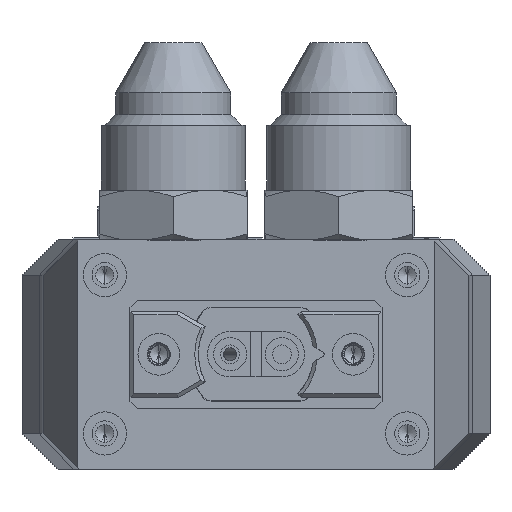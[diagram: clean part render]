
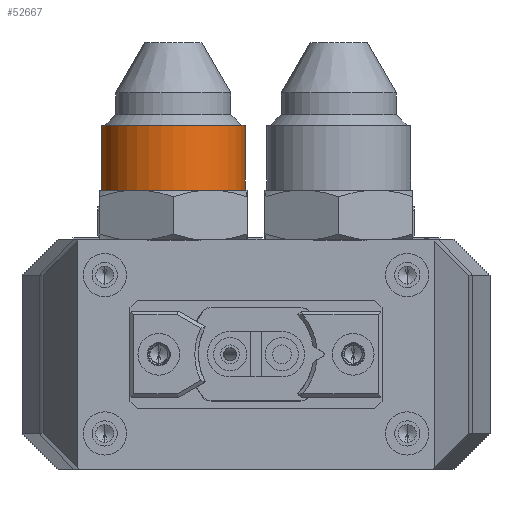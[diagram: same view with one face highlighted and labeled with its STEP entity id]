
A CAD part, front view. The second image highlights one B-rep face of the part: STEP entity #52667.
In plain terms, the highlighted cylindrical face has radius 10 mm (diameter 20 mm), a partial arc.
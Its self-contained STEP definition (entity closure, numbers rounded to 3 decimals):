
#31 = CARTESIAN_POINT ( 'NONE',  ( -100.366, -146.433, 1021.303 ) ) ;
#1193 = CARTESIAN_POINT ( 'NONE',  ( -90.366, -146.433, 1030.303 ) ) ;
#1785 = AXIS2_PLACEMENT_3D ( 'NONE', #31, #53196, #4546 ) ;
#3294 = CARTESIAN_POINT ( 'NONE',  ( -110.366, -146.433, 1021.303 ) ) ;
#3721 = DIRECTION ( 'NONE',  ( 1., 0., 0. ) ) ;
#4546 = DIRECTION ( 'NONE',  ( 1., 0., 0. ) ) ;
#6235 = DIRECTION ( 'NONE',  ( 0., 0., 1. ) ) ;
#14162 = ORIENTED_EDGE ( 'NONE', *, *, #40532, .T. ) ;
#14557 = CARTESIAN_POINT ( 'NONE',  ( -100.366, -146.433, 1052.575 ) ) ;
#17037 = LINE ( 'NONE', #38540, #59964 ) ;
#19364 = DIRECTION ( 'NONE',  ( 0., 0., -1. ) ) ;
#20102 = CYLINDRICAL_SURFACE ( 'NONE', #47701, 10. ) ;
#20143 = ORIENTED_EDGE ( 'NONE', *, *, #24407, .T. ) ;
#20423 = DIRECTION ( 'NONE',  ( 1., 0., 0. ) ) ;
#20802 = VECTOR ( 'NONE', #31431, 1000. ) ;
#24407 = EDGE_CURVE ( 'NONE', #46143, #40011, #58641, .T. ) ;
#24482 = ORIENTED_EDGE ( 'NONE', *, *, #58671, .F. ) ;
#24832 = VERTEX_POINT ( 'NONE', #3294 ) ;
#24836 = EDGE_LOOP ( 'NONE', ( #24482, #14162, #37399, #20143 ) ) ;
#26309 = FACE_OUTER_BOUND ( 'NONE', #24836, .T. ) ;
#26932 = EDGE_CURVE ( 'NONE', #54185, #46143, #17037, .T. ) ;
#31431 = DIRECTION ( 'NONE',  ( 0., 0., 1. ) ) ;
#36652 = CARTESIAN_POINT ( 'NONE',  ( -110.366, -146.433, 1052.575 ) ) ;
#37399 = ORIENTED_EDGE ( 'NONE', *, *, #26932, .T. ) ;
#38540 = CARTESIAN_POINT ( 'NONE',  ( -90.366, -146.433, 1052.575 ) ) ;
#40011 = VERTEX_POINT ( 'NONE', #50862 ) ;
#40532 = EDGE_CURVE ( 'NONE', #24832, #54185, #62830, .T. ) ;
#40938 = DIRECTION ( 'NONE',  ( 0., 0., 1. ) ) ;
#45318 = CARTESIAN_POINT ( 'NONE',  ( -90.366, -146.433, 1021.303 ) ) ;
#46143 = VERTEX_POINT ( 'NONE', #1193 ) ;
#46452 = CARTESIAN_POINT ( 'NONE',  ( -100.366, -146.433, 1030.303 ) ) ;
#47701 = AXIS2_PLACEMENT_3D ( 'NONE', #14557, #40938, #20423 ) ;
#50862 = CARTESIAN_POINT ( 'NONE',  ( -110.366, -146.433, 1030.303 ) ) ;
#52667 = ADVANCED_FACE ( 'NONE', ( #26309 ), #20102, .T. ) ;
#52972 = LINE ( 'NONE', #36652, #20802 ) ;
#53196 = DIRECTION ( 'NONE',  ( 0., 0., 1. ) ) ;
#54185 = VERTEX_POINT ( 'NONE', #45318 ) ;
#58641 = CIRCLE ( 'NONE', #63092, 10. ) ;
#58671 = EDGE_CURVE ( 'NONE', #24832, #40011, #52972, .T. ) ;
#59964 = VECTOR ( 'NONE', #6235, 1000. ) ;
#62830 = CIRCLE ( 'NONE', #1785, 10. ) ;
#63092 = AXIS2_PLACEMENT_3D ( 'NONE', #46452, #19364, #3721 ) ;
